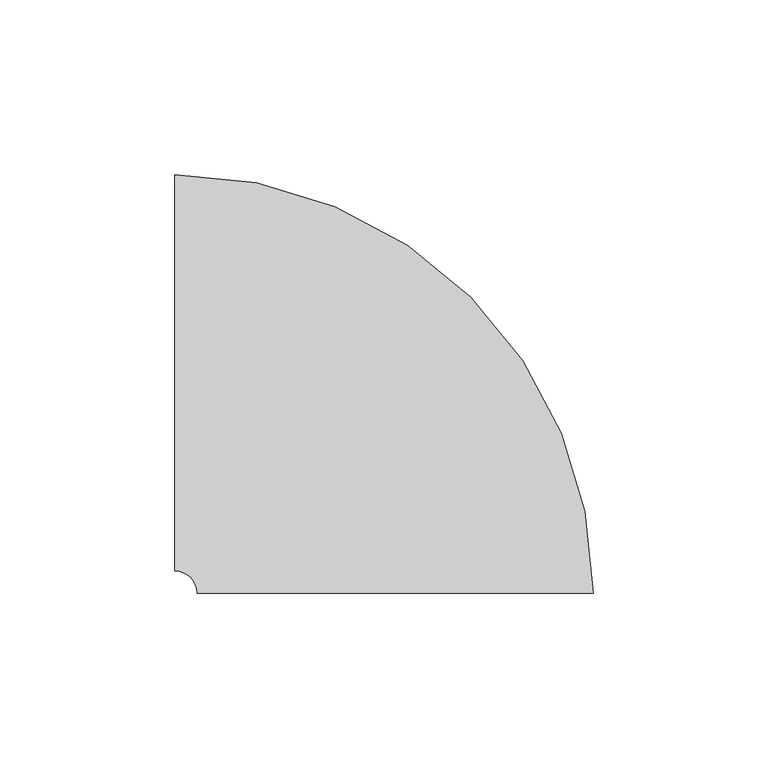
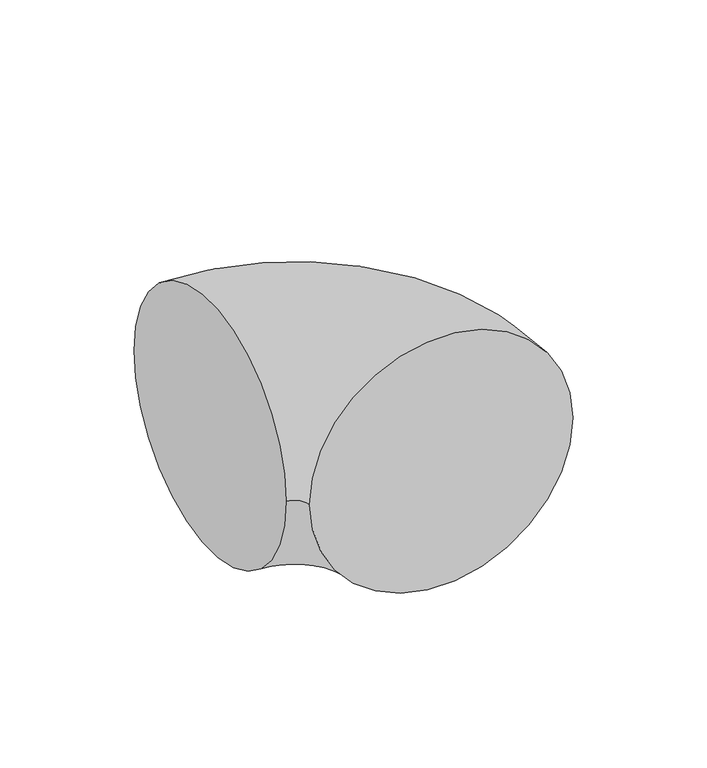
"""IFC4 building model written with IfcOpenShell, lengths in millimetres: pipe fitting geometry, M_Codo - Genérico : Estándar."""

from ifc_helpers import new_model, si_unit, point, frame, origin, place, context, project, spatial, circle_curve, ellipse_curve, trimmed, source, transform, mapped, element, save
from ifc_brep_helpers import plane_surface, revolved_surface, advanced_brep


def pipe_fitting_996fb7ce(model_context):
    return source(origin(), model_context, "Body", "AdvancedBrep", [
        advanced_brep(
        [(-62.9410809, 56.5875, 0.0), (-62.9410809, -56.5875, 0.0), (56.5839189, -62.9443004, 0.0), (-56.5910809, -62.9378613, 0.0)],
        [
            (0, 1, circle_curve(frame((-62.9410809, 0.0, 0.0), z_axis=(-1.0, 0.0, 0.0), x_axis=(0.0, -1.0, 0.0)), 56.5875)),
            (1, 0, circle_curve(frame((-62.9410809, 0.0, 0.0), z_axis=(-1.0, 0.0, 0.0), x_axis=(0.0, -1.0, 0.0)), 56.5875)),
            (2, 3, circle_curve(frame((-0.003581, -62.9410808, 0.0), z_axis=(-5.6894956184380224e-05, -0.999999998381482, 0.0), x_axis=(-0.999999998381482, 5.6894956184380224e-05, 0.0)), 56.5875)),
            (3, 2, circle_curve(frame((-0.003581, -62.9410808, 0.0), z_axis=(-5.6894956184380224e-05, -0.999999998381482, 0.0), x_axis=(-0.999999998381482, 5.6894956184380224e-05, 0.0)), 56.5875)),
            (2, 0, circle_curve(frame((-62.9410809, -62.9375, 0.0), z_axis=(0.0, 0.0, 1.0), x_axis=(0.0, 1.0, 0.0)), 119.525)),
            (1, 3, circle_curve(frame((-62.9410809, -62.9375, 0.0), z_axis=(0.0, 0.0, -1.0), x_axis=(0.0, 1.0, 0.0)), 6.35)),
        ],
        [
            plane_surface(frame((-62.9410809, 0.0, 0.0), z_axis=(-1.0, 0.0, 0.0), x_axis=(0.0, 0.0, 1.0))),
            plane_surface(frame((-0.003581, -62.9410808, 0.0), z_axis=(-5.689495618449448e-05, -0.999999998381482, 0.0), x_axis=(0.0, 0.0, 1.0))),
            revolved_surface(trimmed(ellipse_curve(frame((-62.9410809, 0.0, 0.0), z_axis=(1.0, 0.0, 0.0), x_axis=(0.0, -1.0, 0.0)), 56.5875, 56.5875), [point((-62.9410809, 56.5875, 0.0))], [point((-62.9410809, -56.5875, 0.0))], True, "CARTESIAN"), (-62.9410809, -62.9375, 0.0), (0.0, 0.0, 1.0)),
            revolved_surface(trimmed(ellipse_curve(frame((-62.9410809, 0.0, 0.0), z_axis=(1.0, 0.0, 0.0), x_axis=(0.0, -1.0, 0.0)), 56.5875, 56.5875), [point((-62.9410809, -56.5875, 0.0))], [point((-62.9410809, 56.5875, 0.0))], True, "CARTESIAN"), (-62.9410809, -62.9375, 0.0), (0.0, 0.0, 1.0)),
        ],
        [
            (0, [[1, 2]]),
            (1, [[3, 4]]),
            (2, [[-3, 5, -2, 6]]),
            (3, [[-4, -6, -1, -5]]),
        ],
    ),
    ])


if __name__ == "__main__":
    model = new_model("IFC4")
    model_context = context("Model", 3, world=origin())
    ifc_project = project(units=[si_unit("LENGTHUNIT", "METRE", prefix="MILLI")], contexts=[model_context])
    site = spatial("IfcSite", under=ifc_project)
    building = spatial("IfcBuilding", under=site)
    placement = place(None, origin())
    pipe_fitting_shape = pipe_fitting_996fb7ce(model_context)
    element("IfcPipeFitting", 1, ObjectType="M_Codo - Genérico : Estándar", at=placement, inside=building, context=model_context, shape_type="MappedRepresentation", body=[
        mapped(pipe_fitting_shape, transform((0.0, 0.0, 0.0), x_axis=(1.0, 0.0, 0.0), y_axis=(0.0, 1.0, 0.0), z_axis=(0.0, 0.0, 1.0))),
    ])
    save(model, "model.ifc")
